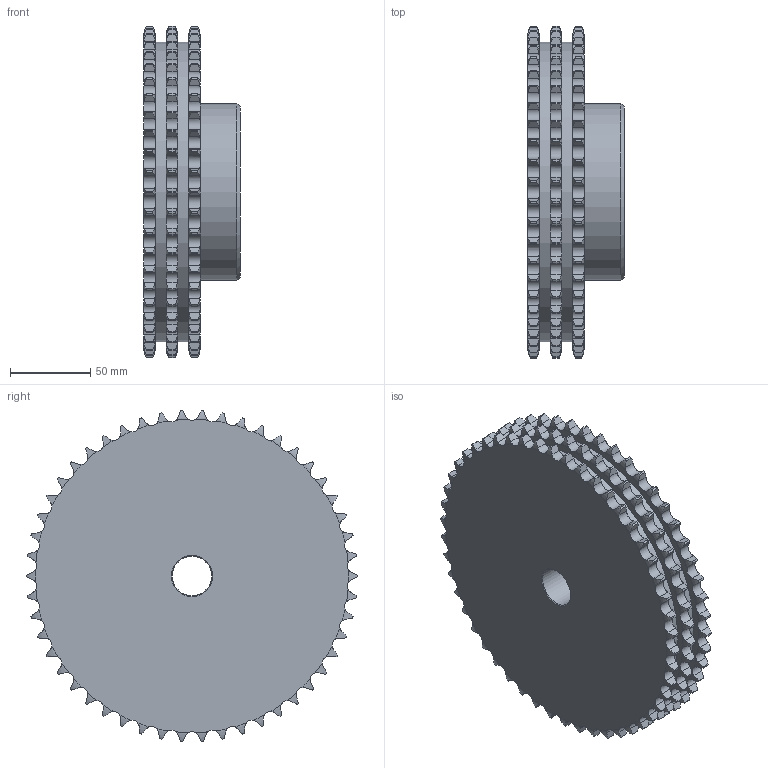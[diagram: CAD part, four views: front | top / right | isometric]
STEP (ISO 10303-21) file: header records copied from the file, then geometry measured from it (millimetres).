
FILE_DESCRIPTION(/* description */ (''),/* implementation_level */ '2;1');
FILE_NAME(/* name */ 'C:\Users\stagistaCAD\Desktop\10312050.stp',/* time_stamp */ '2018-06-22T12:18:55+02:00',/* author */ ('stagistacad'),/* organization */ (''),/* preprocessor_version */ 'ST-DEVELOPER v15.6',/* originating_system */ 'Autodesk Inventor 2015',/* authorisation */ '');
FILE_SCHEMA (('AUTOMOTIVE_DESIGN { 1 0 10303 214 3 1 1 }'));
Length unit declared in the file: millimetre
Products named in the file (1): 10312050
Bounding box: 60 x 206.75 x 206.41 mm (x, y, z)
Volume: 1238912.5 mm3; surface area: 114583.4 mm2
Topology: 1 solids, 1 shells, 914 faces, 2818 edges, 1911 vertices
Faces by surface type: cylinder 604, torus 300, plane 7, cone 3
Full cylindrical faces by diameter (mm): 24.7 x1, 110 x1, 186.75 x2
Entity records: 35554 total; most frequent: CARTESIAN_POINT 12009, ORIENTED_EDGE 5622, DIRECTION 4252, EDGE_CURVE 2811, VERTEX_POINT 1911, AXIS2_PLACEMENT_3D 1826, B_SPLINE_CURVE_WITH_KNOTS 1300, EDGE_LOOP 928
